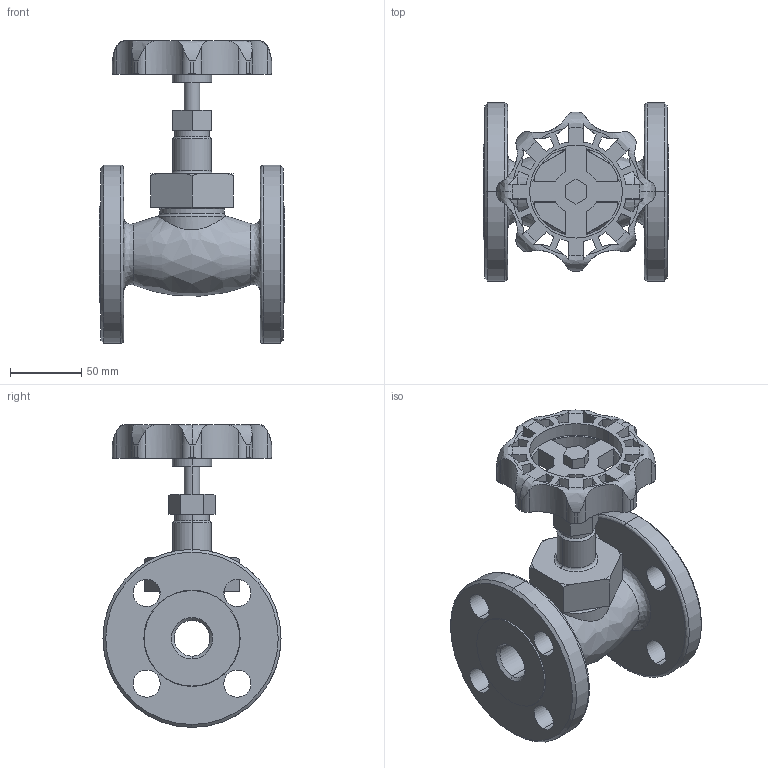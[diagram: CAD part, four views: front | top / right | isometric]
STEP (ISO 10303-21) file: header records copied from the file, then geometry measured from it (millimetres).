
FILE_DESCRIPTION( (''), '2;1');
FILE_NAME ('PC1027.9568.GLV-20F 25A_17543.stp','2025-07-28T11:40:59',(''),(''),'spGate 19.8.4 (****-****-****-****)','','');
FILE_SCHEMA (('AUTOMOTIVE_DESIGN'));
Length unit declared in the file: millimetre
Bounding box: 130 x 125 x 212.5 mm (x, y, z)
Volume: 727213.4 mm3; surface area: 138837.8 mm2
Topology: 1 solids, 1 shells, 235 faces, 680 edges, 444 vertices
Faces by surface type: cylinder 107, plane 74, bspline 54
Entity records: 14396 total; most frequent: CARTESIAN_POINT 3270, ORIENTED_EDGE 1360, DIRECTION 1138, COLOUR_RGB 916, PRESENTATION_STYLE_ASSIGNMENT 916, STYLED_ITEM 916, EDGE_CURVE 680, DRAUGHTING_PRE_DEFINED_CURVE_FONT 680
